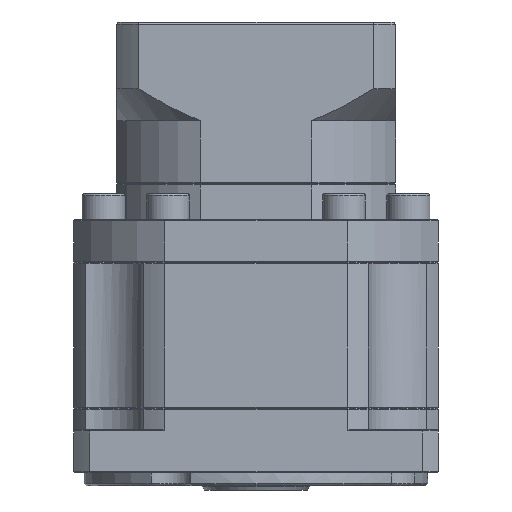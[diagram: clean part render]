
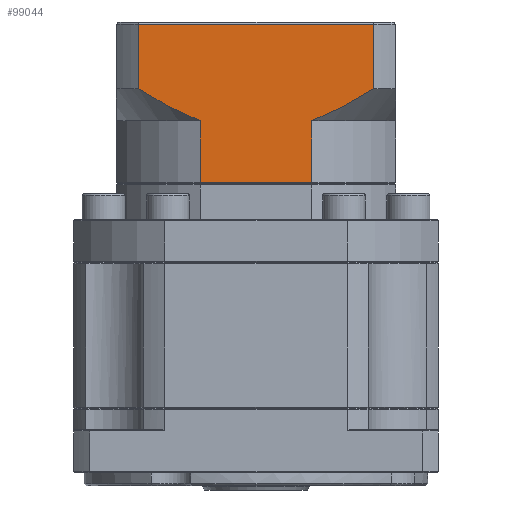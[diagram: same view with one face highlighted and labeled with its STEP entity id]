
A CAD part, front view. The second image highlights one B-rep face of the part: STEP entity #99044.
In plain terms, the highlighted planar face has unit normal (0, -1, 0).
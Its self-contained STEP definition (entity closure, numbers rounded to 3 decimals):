
#1806 = CARTESIAN_POINT ( 'NONE',  ( -39.972, -39.013, 175.652 ) ) ;
#1911 = CARTESIAN_POINT ( 'NONE',  ( -39.972, -39.013, 161.241 ) ) ;
#2519 = DIRECTION ( 'NONE',  ( -1., 0., 0. ) ) ;
#7900 = AXIS2_PLACEMENT_3D ( 'NONE', #59921, #119224, #2519 ) ;
#8267 = EDGE_CURVE ( 'NONE', #89774, #28268, #72747, .T. ) ;
#10620 = ORIENTED_EDGE ( 'NONE', *, *, #8267, .F. ) ;
#11235 = CARTESIAN_POINT ( 'NONE',  ( -11.453, -39.013, 176.594 ) ) ;
#12054 = CARTESIAN_POINT ( 'NONE',  ( 0.404, -39.013, 183.152 ) ) ;
#12448 = CARTESIAN_POINT ( 'NONE',  ( -4.222, -39.013, 180.318 ) ) ;
#13302 = CARTESIAN_POINT ( 'NONE',  ( -42.514, -39.013, 176.668 ) ) ;
#15812 = EDGE_CURVE ( 'NONE', #56736, #96240, #59661, .T. ) ;
#17327 = DIRECTION ( 'NONE',  ( 0., 0., 1. ) ) ;
#20302 = CARTESIAN_POINT ( 'NONE',  ( -54.368, -39.013, 198.152 ) ) ;
#22661 = CARTESIAN_POINT ( 'NONE',  ( -52.099, -39.013, 181.69 ) ) ;
#23230 = ORIENTED_EDGE ( 'NONE', *, *, #57676, .F. ) ;
#25986 = DIRECTION ( 'NONE',  ( -1., 0., 0. ) ) ;
#28268 = VERTEX_POINT ( 'NONE', #77793 ) ;
#28463 = DIRECTION ( 'NONE',  ( 0., 0., -1. ) ) ;
#28676 = VECTOR ( 'NONE', #50222, 1000. ) ;
#31612 = CARTESIAN_POINT ( 'NONE',  ( -41.253, -39.013, 176.143 ) ) ;
#32464 = CARTESIAN_POINT ( 'NONE',  ( -13.991, -39.013, 175.652 ) ) ;
#32575 = VECTOR ( 'NONE', #25986, 1000. ) ;
#33651 = ORIENTED_EDGE ( 'NONE', *, *, #15812, .F. ) ;
#37834 = VECTOR ( 'NONE', #110129, 1000. ) ;
#39685 = VECTOR ( 'NONE', #79809, 1000. ) ;
#40976 = CARTESIAN_POINT ( 'NONE',  ( -39.972, -39.013, 175.652 ) ) ;
#44550 = FACE_OUTER_BOUND ( 'NONE', #60826, .T. ) ;
#45471 = ORIENTED_EDGE ( 'NONE', *, *, #66379, .F. ) ;
#49446 = CARTESIAN_POINT ( 'NONE',  ( -9.001, -39.013, 177.739 ) ) ;
#50222 = DIRECTION ( 'NONE',  ( 0., 0., -1. ) ) ;
#50706 = CARTESIAN_POINT ( 'NONE',  ( -40.615, -39.013, 175.89 ) ) ;
#53270 = LINE ( 'NONE', #109250, #39685 ) ;
#56736 = VERTEX_POINT ( 'NONE', #32464 ) ;
#57676 = EDGE_CURVE ( 'NONE', #114837, #81232, #63624, .T. ) ;
#59661 = LINE ( 'NONE', #87673, #97856 ) ;
#59921 = CARTESIAN_POINT ( 'NONE',  ( 5.518, -39.013, 198.652 ) ) ;
#60464 = CARTESIAN_POINT ( 'NONE',  ( -0.734, -39.013, 182.418 ) ) ;
#60476 = CARTESIAN_POINT ( 'NONE',  ( -46.203, -39.013, 178.397 ) ) ;
#60826 = EDGE_LOOP ( 'NONE', ( #10620, #62697, #45471, #119688, #23230, #79841, #33651, #104234 ) ) ;
#60863 = CARTESIAN_POINT ( 'NONE',  ( -1.886, -39.013, 181.703 ) ) ;
#62697 = ORIENTED_EDGE ( 'NONE', *, *, #101213, .T. ) ;
#63624 = LINE ( 'NONE', #91353, #37834 ) ;
#64079 = VECTOR ( 'NONE', #17327, 1000. ) ;
#65693 = LINE ( 'NONE', #113613, #64079 ) ;
#66379 = EDGE_CURVE ( 'NONE', #97131, #88136, #65693, .T. ) ;
#70322 = CARTESIAN_POINT ( 'NONE',  ( -44.991, -39.013, 177.792 ) ) ;
#71154 = CARTESIAN_POINT ( 'NONE',  ( -54.368, -39.013, 183.152 ) ) ;
#72747 = LINE ( 'NONE', #99690, #28676 ) ;
#77793 = CARTESIAN_POINT ( 'NONE',  ( 0.404, -39.013, 183.152 ) ) ;
#79293 = CARTESIAN_POINT ( 'NONE',  ( -13.991, -39.013, 175.652 ) ) ;
#79753 = CARTESIAN_POINT ( 'NONE',  ( -49.784, -39.013, 180.302 ) ) ;
#79809 = DIRECTION ( 'NONE',  ( 1., 0., 0. ) ) ;
#79841 = ORIENTED_EDGE ( 'NONE', *, *, #106007, .T. ) ;
#81232 = VERTEX_POINT ( 'NONE', #1806 ) ;
#81634 = CARTESIAN_POINT ( 'NONE',  ( 0.404, -39.013, 198.152 ) ) ;
#82426 = B_SPLINE_CURVE_WITH_KNOTS ( 'NONE', 3,
 ( #12054, #60464, #60863, #12448, #88738, #49446, #11235, #79293 ),
 .UNSPECIFIED., .F., .F.,
 ( 4, 2, 2, 4 ),
 ( 0.059, 0.063, 0.067, 0.075 ),
 .UNSPECIFIED. ) ;
#82620 = CARTESIAN_POINT ( 'NONE',  ( -54.368, -39.013, 183.152 ) ) ;
#83894 = CARTESIAN_POINT ( 'NONE',  ( -54.368, -39.013, 198.152 ) ) ;
#87673 = CARTESIAN_POINT ( 'NONE',  ( -13.991, -39.013, 175.652 ) ) ;
#88136 = VERTEX_POINT ( 'NONE', #20302 ) ;
#88732 = EDGE_CURVE ( 'NONE', #81232, #97131, #101646, .T. ) ;
#88738 = CARTESIAN_POINT ( 'NONE',  ( -5.407, -39.013, 179.648 ) ) ;
#89774 = VERTEX_POINT ( 'NONE', #81634 ) ;
#91353 = CARTESIAN_POINT ( 'NONE',  ( -39.972, -39.013, 175.652 ) ) ;
#96240 = VERTEX_POINT ( 'NONE', #103334 ) ;
#97131 = VERTEX_POINT ( 'NONE', #82620 ) ;
#97856 = VECTOR ( 'NONE', #28463, 1000. ) ;
#99044 = ADVANCED_FACE ( 'NONE', ( #44550 ), #108608, .F. ) ;
#99690 = CARTESIAN_POINT ( 'NONE',  ( 0.404, -39.013, 180.652 ) ) ;
#101213 = EDGE_CURVE ( 'NONE', #89774, #88136, #120989, .T. ) ;
#101646 = B_SPLINE_CURVE_WITH_KNOTS ( 'NONE', 3,
 ( #40976, #50706, #31612, #13302, #110015, #70322, #60476, #79753, #22661, #71154 ),
 .UNSPECIFIED., .F., .F.,
 ( 4, 2, 2, 2, 4 ),
 ( 0.101, 0.104, 0.106, 0.11, 0.118 ),
 .UNSPECIFIED. ) ;
#103334 = CARTESIAN_POINT ( 'NONE',  ( -13.991, -39.013, 161.241 ) ) ;
#104234 = ORIENTED_EDGE ( 'NONE', *, *, #116572, .F. ) ;
#106007 = EDGE_CURVE ( 'NONE', #114837, #96240, #53270, .T. ) ;
#108608 = PLANE ( 'NONE',  #7900 ) ;
#109250 = CARTESIAN_POINT ( 'NONE',  ( 5.518, -39.013, 161.241 ) ) ;
#110015 = CARTESIAN_POINT ( 'NONE',  ( -43.138, -39.013, 176.942 ) ) ;
#110129 = DIRECTION ( 'NONE',  ( 0., 0., 1. ) ) ;
#113613 = CARTESIAN_POINT ( 'NONE',  ( -54.368, -39.013, 180.652 ) ) ;
#114837 = VERTEX_POINT ( 'NONE', #1911 ) ;
#116572 = EDGE_CURVE ( 'NONE', #28268, #56736, #82426, .T. ) ;
#119224 = DIRECTION ( 'NONE',  ( 0., 1., 0. ) ) ;
#119688 = ORIENTED_EDGE ( 'NONE', *, *, #88732, .F. ) ;
#120989 = LINE ( 'NONE', #83894, #32575 ) ;
